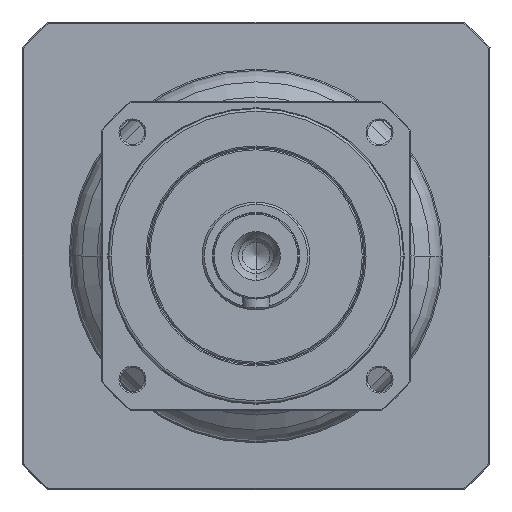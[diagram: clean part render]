
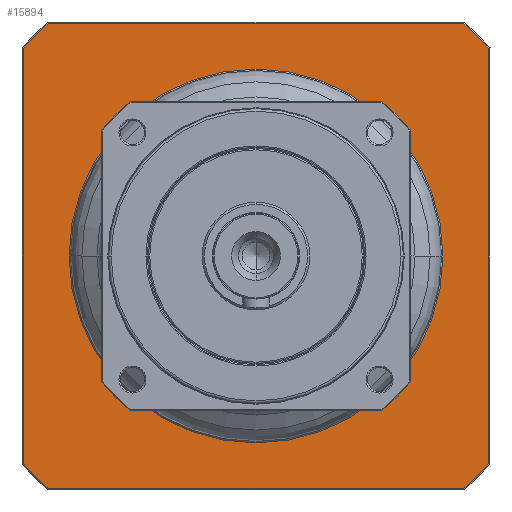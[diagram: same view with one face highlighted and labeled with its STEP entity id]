
A CAD part, left-side view. The second image highlights one B-rep face of the part: STEP entity #15894.
In plain terms, the highlighted planar face has unit normal (-1, 0, 0) as drawn and (0, 0, -1) by its records, which use the part's own axes.
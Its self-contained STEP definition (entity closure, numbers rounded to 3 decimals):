
#14780=CARTESIAN_POINT('',(0.,0.,
2.5));
#14781=DIRECTION('',(0.,0.,-1.));
#14782=DIRECTION('',(0.,-1.,0.));
#14783=AXIS2_PLACEMENT_3D('',#14780,#14781,#14782);
#14785=CARTESIAN_POINT('',(0.,0.,
2.5));
#14786=DIRECTION('',(0.,0.,-1.));
#14787=DIRECTION('',(0.,1.,0.));
#14788=AXIS2_PLACEMENT_3D('',#14785,#14786,#14787);
#14790=CARTESIAN_POINT('',(0.,0.,2.5));
#14791=DIRECTION('',(0.,0.,1.));
#14792=DIRECTION('',(-0.746,-0.666,0.));
#14793=AXIS2_PLACEMENT_3D('',#14790,#14791,#14792);
#14795=DIRECTION('',(1.,0.,0.));
#14796=VECTOR('',#14795,154.58);
#14797=CARTESIAN_POINT('',(-77.29,-86.5,
2.5));
#14798=LINE('',#14797,#14796);
#14799=CARTESIAN_POINT('',(0.,0.,2.5));
#14800=DIRECTION('',(0.,0.,1.));
#14801=DIRECTION('',(0.666,-0.746,0.));
#14802=AXIS2_PLACEMENT_3D('',#14799,#14800,#14801);
#14804=DIRECTION('',(0.,1.,0.));
#14805=VECTOR('',#14804,154.58);
#14806=CARTESIAN_POINT('',(86.5,-77.29,
2.5));
#14807=LINE('',#14806,#14805);
#14808=CARTESIAN_POINT('',(0.,0.,2.5));
#14809=DIRECTION('',(0.,0.,1.));
#14810=DIRECTION('',(0.746,0.666,0.));
#14811=AXIS2_PLACEMENT_3D('',#14808,#14809,#14810);
#14813=DIRECTION('',(-1.,0.,0.));
#14814=VECTOR('',#14813,154.58);
#14815=CARTESIAN_POINT('',(77.29,86.5,2.5));
#14816=LINE('',#14815,#14814);
#14817=CARTESIAN_POINT('',(0.,0.,2.5));
#14818=DIRECTION('',(0.,0.,1.));
#14819=DIRECTION('',(-0.666,0.746,0.));
#14820=AXIS2_PLACEMENT_3D('',#14817,#14818,#14819);
#14822=DIRECTION('',(0.,-1.,0.));
#14823=VECTOR('',#14822,154.58);
#14824=CARTESIAN_POINT('',(-86.5,77.29,
2.5));
#14825=LINE('',#14824,#14823);
#15543=CARTESIAN_POINT('',(0.,-69.5,2.5));
#15544=CARTESIAN_POINT('',(0.,69.5,
2.5));
#15545=VERTEX_POINT('',#15543);
#15546=VERTEX_POINT('',#15544);
#15647=CARTESIAN_POINT('',(-86.5,-77.29,2.5));
#15648=CARTESIAN_POINT('',(-77.29,-86.5,2.5));
#15649=VERTEX_POINT('',#15647);
#15650=VERTEX_POINT('',#15648);
#15655=CARTESIAN_POINT('',(77.29,-86.5,
2.5));
#15656=VERTEX_POINT('',#15655);
#15659=CARTESIAN_POINT('',(86.5,-77.29,2.5));
#15660=VERTEX_POINT('',#15659);
#15663=CARTESIAN_POINT('',(86.5,77.29,2.5));
#15664=VERTEX_POINT('',#15663);
#15667=CARTESIAN_POINT('',(77.29,86.5,2.5));
#15668=VERTEX_POINT('',#15667);
#15671=CARTESIAN_POINT('',(-77.29,86.5,
2.5));
#15672=VERTEX_POINT('',#15671);
#15677=CARTESIAN_POINT('',(-86.5,77.29,2.5));
#15678=VERTEX_POINT('',#15677);
#15866=CARTESIAN_POINT('',(0.,0.,2.5));
#15867=DIRECTION('',(0.,0.,1.));
#15868=DIRECTION('',(0.,1.,0.));
#15869=AXIS2_PLACEMENT_3D('',#15866,#15867,#15868);
#15870=PLANE('',#15869);
#15872=ORIENTED_EDGE('',*,*,#15871,.T.);
#15874=ORIENTED_EDGE('',*,*,#15873,.T.);
#15876=ORIENTED_EDGE('',*,*,#15875,.T.);
#15878=ORIENTED_EDGE('',*,*,#15877,.T.);
#15880=ORIENTED_EDGE('',*,*,#15879,.T.);
#15882=ORIENTED_EDGE('',*,*,#15881,.T.);
#15884=ORIENTED_EDGE('',*,*,#15883,.T.);
#15886=ORIENTED_EDGE('',*,*,#15885,.T.);
#15887=EDGE_LOOP('',(#15872,#15874,#15876,#15878,#15880,#15882,#15884,#15886));
#15888=FACE_OUTER_BOUND('',#15887,.F.);
#15890=ORIENTED_EDGE('',*,*,#15889,.T.);
#15891=ORIENTED_EDGE('',*,*,#15856,.T.);
#15892=EDGE_LOOP('',(#15890,#15891));
#15893=FACE_BOUND('',#15892,.F.);
#15894=ADVANCED_FACE('',(#15888,#15893),#15870,.F.);
#14784=CIRCLE('',#14783,69.5);
#14789=CIRCLE('',#14788,69.5);
#14794=CIRCLE('',#14793,116.);
#14803=CIRCLE('',#14802,116.);
#14812=CIRCLE('',#14811,116.);
#14821=CIRCLE('',#14820,116.);
#15856=EDGE_CURVE('',#15546,#15545,#14789,.T.);
#15871=EDGE_CURVE('',#15649,#15650,#14794,.T.);
#15873=EDGE_CURVE('',#15650,#15656,#14798,.T.);
#15875=EDGE_CURVE('',#15656,#15660,#14803,.T.);
#15877=EDGE_CURVE('',#15660,#15664,#14807,.T.);
#15879=EDGE_CURVE('',#15664,#15668,#14812,.T.);
#15881=EDGE_CURVE('',#15668,#15672,#14816,.T.);
#15883=EDGE_CURVE('',#15672,#15678,#14821,.T.);
#15885=EDGE_CURVE('',#15678,#15649,#14825,.T.);
#15889=EDGE_CURVE('',#15545,#15546,#14784,.T.);
